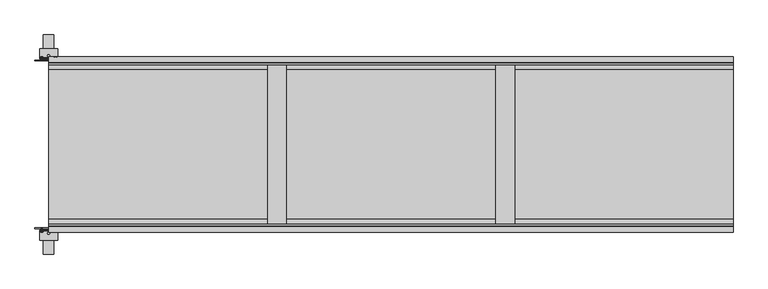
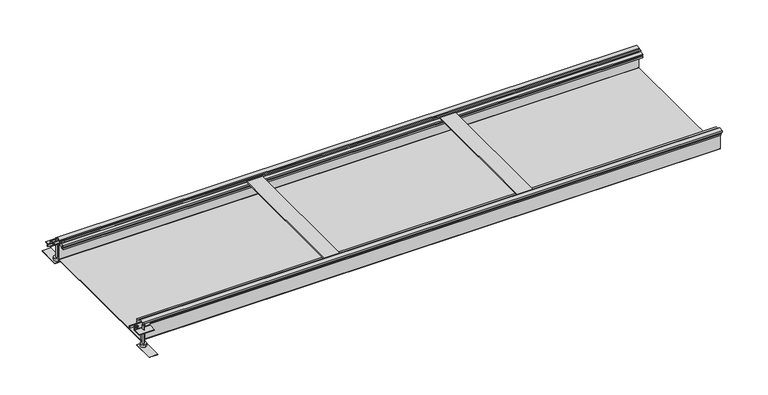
"""IFC4 building model written with IfcOpenShell, lengths in millimetres: proxy geometry."""

from ifc_helpers import new_model, si_unit, point, frame, frame_2d, origin, place, context, project, spatial, polyline, circle_curve, ellipse_curve, trimmed, segment, composite_curve, outline, extrude, source, transform, mapped, element, save
from ifc_brep_helpers import plane_surface, cylinder_surface, revolved_surface, advanced_brep


def electrical_fixtures_b3832a11(model_context):
    return source(origin(), model_context, "Body", "SolidModel", [
        advanced_brep(
        [(-19.209696, -306.6418922, 2.5), (-28.790304, -306.6418922, 2.5), (-28.790304, -304.7, 2.5), (-19.209696, -304.7, 2.5), (-26.562969, -304.7, 2.5), (-21.437031, -304.7, 2.5), (-26.562969, -292.7, 2.5), (-21.437031, -292.7, 2.5), (-24.0, -292.7, 2.5), (-24.0, -308.3479209, 2.5)],
        [
            (0, 1, circle_curve(frame((-24.0, -306.6418922, 2.5), z_axis=(0.0, 1.0, 0.0), x_axis=(-1.0, 0.0, 0.0)), 4.790304)),
            (1, 2),
            (2, 3, circle_curve(frame((-24.0, -304.7, 2.5), z_axis=(0.0, -1.0, 0.0), x_axis=(-1.0, 0.0, 0.0)), 4.790304)),
            (3, 0),
            (1, 0, circle_curve(frame((-24.0, -306.6418922, 2.5), z_axis=(0.0, 1.0, 0.0), x_axis=(-1.0, 0.0, 0.0)), 4.790304)),
            (3, 2, circle_curve(frame((-24.0, -304.7, 2.5), z_axis=(0.0, -1.0, 0.0), x_axis=(-1.0, 0.0, 0.0)), 4.790304)),
            (2, 4),
            (4, 5, circle_curve(frame((-24.0, -304.7, 2.5), z_axis=(0.0, -1.0, 0.0), x_axis=(-1.0, 0.0, 0.0)), 2.562969)),
            (5, 3),
            (5, 4, circle_curve(frame((-24.0, -304.7, 2.5), z_axis=(0.0, -1.0, 0.0), x_axis=(-1.0, 0.0, 0.0)), 2.562969)),
            (4, 6),
            (6, 7, circle_curve(frame((-24.0, -292.7, 2.5), z_axis=(0.0, -1.0, 0.0), x_axis=(-1.0, 0.0, 0.0)), 2.562969)),
            (7, 5),
            (7, 6, circle_curve(frame((-24.0, -292.7, 2.5), z_axis=(0.0, -1.0, 0.0), x_axis=(-1.0, 0.0, 0.0)), 2.562969)),
            (6, 8),
            (8, 7),
            (9, 1, circle_curve(frame((-24.0319066, -300.8592246, 2.5), z_axis=(0.0, 0.0, -1.0), x_axis=(-1.0, 0.0, 0.0)), 7.4887643)),
            (0, 9, circle_curve(frame((-23.9680934, -300.8592246, 2.5), z_axis=(0.0, 0.0, -1.0), x_axis=(1.0, 0.0, 0.0)), 7.4887643)),
        ],
        [
            cylinder_surface(frame((-24.0, -304.2950786, 2.5), z_axis=(0.0, -1.0, 0.0), x_axis=(-1.0, 0.0, 0.0)), 4.790304),
            plane_surface(frame((-24.0, -304.7, 2.5), z_axis=(0.0, 1.0, 0.0), x_axis=(-1.0, 0.0, 0.0))),
            cylinder_surface(frame((-24.0, -304.2950786, 2.5), z_axis=(0.0, -1.0, 0.0), x_axis=(-1.0, 0.0, 0.0)), 2.562969),
            plane_surface(frame((-24.0, -292.7, 2.5), z_axis=(0.0, 1.0, 0.0), x_axis=(-1.0, 0.0, 0.0))),
            revolved_surface(trimmed(ellipse_curve(frame((-24.0319066, -300.8592246, 2.5), z_axis=(0.0, 0.0, 1.0), x_axis=(-1.0, 0.0, 0.0)), 7.4887643, 7.4887643), [point((-28.790304, -306.6418922, 2.5))], [point((-24.0, -308.3479209, 2.5))], True, "CARTESIAN"), (-24.0, -304.2950786, 2.5), (0.0, -1.0, 0.0)),
        ],
        [
            (0, [[1, 2, 3, 4]]),
            (0, [[5, -4, 6, -2]]),
            (1, [[-3, 7, 8, 9]]),
            (1, [[-6, -9, 10, -7]]),
            (2, [[-8, 11, 12, 13]]),
            (2, [[-10, -13, 14, -11]]),
            (3, [[-12, 15, 16]]),
            (3, [[-14, -16, -15]]),
            (4, [[17, -1, 18]]),
            (4, [[-18, -5, -17]]),
        ],
    ),
        advanced_brep(
        [(29.0575247, 304.7, 2.5), (19.4769168, 304.7, 2.5), (19.4769168, 306.6418922, 2.5), (29.0575247, 306.6418922, 2.5), (26.8301898, 304.7, 2.5), (21.7042517, 304.7, 2.5), (26.8301898, 292.7, 2.5), (21.7042517, 292.7, 2.5), (24.2672208, 292.7, 2.5), (24.2672208, 308.3479209, 2.5)],
        [
            (0, 1, circle_curve(frame((24.2672208, 304.7, 2.5), z_axis=(0.0, 1.0, 0.0), x_axis=(-1.0, 0.0, 0.0)), 4.790304)),
            (1, 2),
            (2, 3, circle_curve(frame((24.2672208, 306.6418922, 2.5), z_axis=(0.0, -1.0, 0.0), x_axis=(-1.0, 0.0, 0.0)), 4.790304)),
            (3, 0),
            (1, 0, circle_curve(frame((24.2672208, 304.7, 2.5), z_axis=(0.0, 1.0, 0.0), x_axis=(-1.0, 0.0, 0.0)), 4.790304)),
            (3, 2, circle_curve(frame((24.2672208, 306.6418922, 2.5), z_axis=(0.0, -1.0, 0.0), x_axis=(-1.0, 0.0, 0.0)), 4.790304)),
            (4, 5, circle_curve(frame((24.2672208, 304.7, 2.5), z_axis=(0.0, 1.0, 0.0), x_axis=(-1.0, 0.0, 0.0)), 2.562969)),
            (5, 1),
            (0, 4),
            (5, 4, circle_curve(frame((24.2672208, 304.7, 2.5), z_axis=(0.0, 1.0, 0.0), x_axis=(-1.0, 0.0, 0.0)), 2.562969)),
            (6, 7, circle_curve(frame((24.2672208, 292.7, 2.5), z_axis=(0.0, 1.0, 0.0), x_axis=(-1.0, 0.0, 0.0)), 2.562969)),
            (7, 5),
            (4, 6),
            (7, 6, circle_curve(frame((24.2672208, 292.7, 2.5), z_axis=(0.0, 1.0, 0.0), x_axis=(-1.0, 0.0, 0.0)), 2.562969)),
            (8, 7),
            (6, 8),
            (2, 9, circle_curve(frame((24.2353142, 300.8592246, 2.5), z_axis=(0.0, 0.0, -1.0), x_axis=(-1.0, 0.0, 0.0)), 7.4887643)),
            (9, 3, circle_curve(frame((24.2991274, 300.8592246, 2.5), z_axis=(0.0, 0.0, -1.0), x_axis=(1.0, 0.0, 0.0)), 7.4887643)),
        ],
        [
            cylinder_surface(frame((24.2672208, 304.2950786, 2.5), z_axis=(0.0, -1.0, 0.0), x_axis=(-1.0, 0.0, 0.0)), 4.790304),
            plane_surface(frame((24.2672208, 304.7, 2.5), z_axis=(0.0, -1.0, 0.0), x_axis=(-1.0, 0.0, 0.0))),
            cylinder_surface(frame((24.2672208, 304.2950786, 2.5), z_axis=(0.0, -1.0, 0.0), x_axis=(-1.0, 0.0, 0.0)), 2.562969),
            plane_surface(frame((24.2672208, 292.7, 2.5), z_axis=(0.0, -1.0, 0.0), x_axis=(-1.0, 0.0, 0.0))),
            revolved_surface(trimmed(ellipse_curve(frame((24.2353142, 300.8592246, 2.5), z_axis=(0.0, 0.0, 1.0), x_axis=(-1.0, 0.0, 0.0)), 7.4887643, 7.4887643), [point((24.2672208, 308.3479209, 2.5))], [point((19.4769168, 306.6418922, 2.5))], True, "CARTESIAN"), (24.2672208, 304.2950786, 2.5), (0.0, -1.0, 0.0)),
        ],
        [
            (0, [[1, 2, 3, 4]]),
            (0, [[5, -4, 6, -2]]),
            (1, [[7, 8, -1, 9]]),
            (1, [[10, -9, -5, -8]]),
            (2, [[11, 12, -7, 13]]),
            (2, [[14, -13, -10, -12]]),
            (3, [[15, -11, 16]]),
            (3, [[-16, -14, -15]]),
            (4, [[-3, 17, 18]]),
            (4, [[-6, -18, -17]]),
        ],
    ),
        advanced_brep(
        [(-19.209696, 304.7, 2.5), (-28.790304, 304.7, 2.5), (-28.790304, 306.6418922, 2.5), (-19.209696, 306.6418922, 2.5), (-21.437031, 304.7, 2.5), (-26.562969, 304.7, 2.5), (-21.437031, 292.7, 2.5), (-26.562969, 292.7, 2.5), (-24.0, 292.7, 2.5), (-24.0, 308.3479209, 2.5)],
        [
            (0, 1, circle_curve(frame((-24.0, 304.7, 2.5), z_axis=(0.0, 1.0, 0.0), x_axis=(-1.0, 0.0, 0.0)), 4.790304)),
            (1, 2),
            (2, 3, circle_curve(frame((-24.0, 306.6418922, 2.5), z_axis=(0.0, -1.0, 0.0), x_axis=(-1.0, 0.0, 0.0)), 4.790304)),
            (3, 0),
            (1, 0, circle_curve(frame((-24.0, 304.7, 2.5), z_axis=(0.0, 1.0, 0.0), x_axis=(-1.0, 0.0, 0.0)), 4.790304)),
            (3, 2, circle_curve(frame((-24.0, 306.6418922, 2.5), z_axis=(0.0, -1.0, 0.0), x_axis=(-1.0, 0.0, 0.0)), 4.790304)),
            (4, 5, circle_curve(frame((-24.0, 304.7, 2.5), z_axis=(0.0, 1.0, 0.0), x_axis=(-1.0, 0.0, 0.0)), 2.562969)),
            (5, 1),
            (0, 4),
            (5, 4, circle_curve(frame((-24.0, 304.7, 2.5), z_axis=(0.0, 1.0, 0.0), x_axis=(-1.0, 0.0, 0.0)), 2.562969)),
            (6, 7, circle_curve(frame((-24.0, 292.7, 2.5), z_axis=(0.0, 1.0, 0.0), x_axis=(-1.0, 0.0, 0.0)), 2.562969)),
            (7, 5),
            (4, 6),
            (7, 6, circle_curve(frame((-24.0, 292.7, 2.5), z_axis=(0.0, 1.0, 0.0), x_axis=(-1.0, 0.0, 0.0)), 2.562969)),
            (8, 7),
            (6, 8),
            (2, 9, circle_curve(frame((-24.0319066, 300.8592246, 2.5), z_axis=(0.0, 0.0, -1.0), x_axis=(-1.0, 0.0, 0.0)), 7.4887643)),
            (9, 3, circle_curve(frame((-23.9680934, 300.8592246, 2.5), z_axis=(0.0, 0.0, -1.0), x_axis=(1.0, 0.0, 0.0)), 7.4887643)),
        ],
        [
            cylinder_surface(frame((-24.0, 304.2950786, 2.5), z_axis=(0.0, -1.0, 0.0), x_axis=(-1.0, 0.0, 0.0)), 4.790304),
            plane_surface(frame((-24.0, 304.7, 2.5), z_axis=(0.0, -1.0, 0.0), x_axis=(-1.0, 0.0, 0.0))),
            cylinder_surface(frame((-24.0, 304.2950786, 2.5), z_axis=(0.0, -1.0, 0.0), x_axis=(-1.0, 0.0, 0.0)), 2.562969),
            plane_surface(frame((-24.0, 292.7, 2.5), z_axis=(0.0, -1.0, 0.0), x_axis=(-1.0, 0.0, 0.0))),
            revolved_surface(trimmed(ellipse_curve(frame((-24.0319066, 300.8592246, 2.5), z_axis=(0.0, 0.0, 1.0), x_axis=(-1.0, 0.0, 0.0)), 7.4887643, 7.4887643), [point((-24.0, 308.3479209, 2.5))], [point((-28.790304, 306.6418922, 2.5))], True, "CARTESIAN"), (-24.0, 304.2950786, 2.5), (0.0, -1.0, 0.0)),
        ],
        [
            (0, [[1, 2, 3, 4]]),
            (0, [[5, -4, 6, -2]]),
            (1, [[7, 8, -1, 9]]),
            (1, [[10, -9, -5, -8]]),
            (2, [[11, 12, -7, 13]]),
            (2, [[14, -13, -10, -12]]),
            (3, [[15, -11, 16]]),
            (3, [[-16, -14, -15]]),
            (4, [[-3, 17, 18]]),
            (4, [[-6, -18, -17]]),
        ],
    ),
        extrude(outline(polyline([(-48.0, 292.7), (-48.0, 295.7), (48.0, 295.7), (48.0, 292.7), (-48.0, 292.7)])), frame((0.0, 0.0, -2.5), z_axis=(0.0, 0.0, 1.0), x_axis=(1.0, 0.0, 0.0)), (0.0, 0.0, 1.0), 10.0),
        extrude(outline(polyline([(-48.0, -295.7), (-48.0, -292.7), (48.0, -292.7), (48.0, -295.7), (-48.0, -295.7)])), frame((0.0, 0.0, -2.5), z_axis=(0.0, 0.0, 1.0), x_axis=(1.0, 0.0, 0.0)), (0.0, 0.0, 1.0), 10.0),
        extrude(outline(composite_curve([segment(polyline([(300.6, 10.9), (302.6, 10.9), (302.6, -11.1088822)]), True, "CONTINUOUS"), segment(trimmed(circle_curve(frame_2d((303.5911178, -11.1088822)), 0.9911178), [point((302.6, -11.1088822))], [point((303.5911178, -12.1))], True, "CARTESIAN"), True, "CONTINUOUS"), segment(polyline([(303.5911178, -12.1), (335.6, -12.1), (335.6, -14.1), (303.6002521, -14.1)]), True, "CONTINUOUS"), segment(trimmed(circle_curve(frame_2d((303.6002521, -11.0997479)), 3.0002521), [point((303.6002521, -14.1))], [point((300.6, -11.0997479))], False, "CARTESIAN"), True, "CONTINUOUS"), segment(polyline([(300.6, -11.0997479), (300.6, 10.9)]), True, "CONTINUOUS")], self_intersect=False)), frame((-31.7, 0.0, 0.0), z_axis=(1.0, 0.0, 0.0), x_axis=(0.0, 1.0, 0.0)), (0.0, 0.0, 1.0), 63.4),
        extrude(outline(composite_curve([segment(polyline([(-300.6, 10.9), (-300.6, -11.0997479)]), True, "CONTINUOUS"), segment(trimmed(circle_curve(frame_2d((-303.6002521, -11.0997479)), 3.0002521), [point((-300.6, -11.0997479))], [point((-303.6002521, -14.1))], False, "CARTESIAN"), True, "CONTINUOUS"), segment(polyline([(-303.6002521, -14.1), (-335.6, -14.1), (-335.6, -12.1), (-303.5911178, -12.1)]), True, "CONTINUOUS"), segment(trimmed(circle_curve(frame_2d((-303.5911178, -11.1088822)), 0.9911178), [point((-303.5911178, -12.1))], [point((-302.6, -11.1088822))], True, "CARTESIAN"), True, "CONTINUOUS"), segment(polyline([(-302.6, -11.1088822), (-302.6, 10.9), (-300.6, 10.9)]), True, "CONTINUOUS")], self_intersect=False)), frame((-31.7, 0.0, 0.0), z_axis=(1.0, 0.0, 0.0), x_axis=(0.0, 1.0, 0.0)), (0.0, 0.0, 1.0), 63.4),
        extrude(outline(composite_curve([segment(trimmed(circle_curve(frame_2d((0.0, 311.1712378)), 3.9923162), [point((0.0, 315.163554))], [point((0.0, 307.1789216))], False, "CARTESIAN"), True, "CONTINUOUS"), segment(trimmed(circle_curve(frame_2d((0.0, 311.1712378)), 3.9923162), [point((0.0, 307.1789216))], [point((0.0, 315.163554))], False, "CARTESIAN"), True, "CONTINUOUS")], self_intersect=False)), frame((0.0, 0.0, -74.8), z_axis=(0.0, 0.0, 1.0), x_axis=(1.0, 0.0, 0.0)), (0.0, 0.0, 1.0), 81.8),
        extrude(outline(composite_curve([segment(trimmed(circle_curve(frame_2d((0.0, -311.0787011)), 3.991847), [point((0.0, -307.0868541))], [point((0.0, -315.0705482))], False, "CARTESIAN"), True, "CONTINUOUS"), segment(trimmed(circle_curve(frame_2d((0.0, -311.0787011)), 3.991847), [point((0.0, -315.0705482))], [point((0.0, -307.0868541))], False, "CARTESIAN"), True, "CONTINUOUS")], self_intersect=False)), frame((0.0, 0.0, -74.8), z_axis=(0.0, 0.0, 1.0), x_axis=(1.0, 0.0, 0.0)), (0.0, 0.0, 1.0), 81.8),
        extrude(outline(composite_curve([segment(trimmed(circle_curve(frame_2d((0.0, 311.1652527)), 12.0), [point((0.0, 323.1652527))], [point((0.0, 299.1652527))], False, "CARTESIAN"), True, "CONTINUOUS"), segment(trimmed(circle_curve(frame_2d((0.0, 311.1652527)), 12.0), [point((0.0, 299.1652527))], [point((0.0, 323.1652527))], False, "CARTESIAN"), True, "CONTINUOUS")], self_intersect=False)), frame((0.0, 0.0, -85.5), z_axis=(0.0, 0.0, 1.0), x_axis=(1.0, 0.0, 0.0)), (0.0, 0.0, 1.0), 10.7),
        extrude(outline(composite_curve([segment(trimmed(circle_curve(frame_2d((0.0, -311.112037)), 12.0), [point((0.0, -299.112037))], [point((0.0, -323.112037))], False, "CARTESIAN"), True, "CONTINUOUS"), segment(trimmed(circle_curve(frame_2d((0.0, -311.112037)), 12.0), [point((0.0, -323.112037))], [point((0.0, -299.112037))], False, "CARTESIAN"), True, "CONTINUOUS")], self_intersect=False)), frame((0.0, 0.0, -85.5), z_axis=(0.0, 0.0, 1.0), x_axis=(1.0, 0.0, 0.0)), (0.0, 0.0, 1.0), 10.7),
        extrude(outline(polyline([(18.0, 294.1), (-18.0, 294.1), (-18.0, 384.1), (18.0, 384.1), (18.0, 294.1)])), frame((0.0, 0.0, -87.0), z_axis=(0.0, 0.0, 1.0), x_axis=(1.0, 0.0, 0.0)), (0.0, 0.0, 1.0), 1.5),
        extrude(outline(polyline([(18.0, -384.1), (-18.0, -384.1), (-18.0, -294.1), (18.0, -294.1), (18.0, -384.1)])), frame((0.0, 0.0, -87.0), z_axis=(0.0, 0.0, 1.0), x_axis=(1.0, 0.0, 0.0)), (0.0, 0.0, 1.0), 1.5),
        extrude(outline(polyline([(1633.5851476, 279.8), (1633.5851476, -279.8), (1568.585332, -279.8), (1568.585332, 279.8), (1633.5851476, 279.8)])), frame((0.0, 0.0, 2.5), z_axis=(0.0, 0.0, 1.0), x_axis=(1.0, 0.0, 0.0)), (0.0, 0.0, 1.0), 4.2),
        extrude(outline(polyline([(833.5851476, 279.8), (833.5851476, -279.8), (768.585332, -279.8), (768.585332, 279.8), (833.5851476, 279.8)])), frame((0.0, 0.0, 2.5), z_axis=(0.0, 0.0, 1.0), x_axis=(1.0, 0.0, 0.0)), (0.0, 0.0, 1.0), 4.2),
        extrude(outline(polyline([(308.0, 6.7), (290.0, 6.7), (290.0, -2.5), (300.475, -2.5), (300.475, -4.0), (294.6, -4.0), (294.6, -14.0), (293.1, -14.0), (293.1, -4.0), (285.1, -4.0), (285.1, -10.1), (273.3, -10.1), (273.3, -14.0), (263.1, -14.0), (263.1, -6.6607064), (266.0, -6.6607064), (266.0, -12.5), (270.7, -12.5), (270.7, 0.5), (266.0, 0.5), (266.0, -2.1), (262.9910979, -2.1), (262.9910979, 2.5), (279.8, 2.5), (279.8, 10.0), (285.0, 10.0), (285.0, -0.5), (288.0, -0.5), (288.0, 13.0), (308.0, 13.0), (308.0, 6.7)])), frame((0.0, 0.0, 0.0), z_axis=(1.0, 0.0, 0.0), x_axis=(0.0, 1.0, 0.0)), (0.0, 0.0, 1.0), 2400.0),
        extrude(outline(polyline([(-308.0, 6.7), (-308.0, 13.0), (-288.0, 13.0), (-288.0, -0.5), (-285.0, -0.5), (-285.0, 10.0), (-279.8, 10.0), (-279.8, 2.5), (-262.9910979, 2.5), (-262.9910979, -2.1), (-266.0, -2.1), (-266.0, 0.5), (-270.7, 0.5), (-270.7, -12.5), (-266.0, -12.5), (-266.0, -6.6607064), (-263.1, -6.6607064), (-263.1, -14.0), (-273.3, -14.0), (-273.3, -10.1), (-285.1, -10.1), (-285.1, -4.0), (-293.1, -4.0), (-293.1, -14.0), (-294.6, -14.0), (-294.6, -4.0), (-300.475, -4.0), (-300.475, -2.5), (-290.0, -2.5), (-290.0, 6.7), (-308.0, 6.7)])), frame((0.0, 0.0, 0.0), z_axis=(1.0, 0.0, 0.0), x_axis=(0.0, 1.0, 0.0)), (0.0, 0.0, 1.0), 2400.0),
        extrude(outline(composite_curve([segment(polyline([(291.0, -5.0), (286.0, -5.0), (286.0, -4.0), (291.0, -4.0)]), True, "CONTINUOUS"), segment(trimmed(circle_curve(frame_2d((291.0, -6.0)), 2.0), [point((291.0, -4.0))], [point((293.0, -6.0))], False, "CARTESIAN"), True, "CONTINUOUS"), segment(polyline([(293.0, -6.0), (293.0, -74.0)]), True, "CONTINUOUS"), segment(trimmed(circle_curve(frame_2d((291.0, -74.0)), 2.0), [point((293.0, -74.0))], [point((291.0, -76.0))], False, "CARTESIAN"), True, "CONTINUOUS"), segment(polyline([(291.0, -76.0), (-290.9892454, -76.0)]), True, "CONTINUOUS"), segment(trimmed(circle_curve(frame_2d((-290.9892454, -73.9892454)), 2.0107546), [point((-290.9892454, -76.0))], [point((-293.0, -73.9892454))], False, "CARTESIAN"), True, "CONTINUOUS"), segment(polyline([(-293.0, -73.9892454), (-293.0, -5.9843923)]), True, "CONTINUOUS"), segment(trimmed(circle_curve(frame_2d((-291.0156077, -5.9843923)), 1.9843923), [point((-293.0, -5.9843923))], [point((-291.0156077, -4.0))], False, "CARTESIAN"), True, "CONTINUOUS"), segment(polyline([(-291.0156077, -4.0), (-286.0, -4.0), (-286.0, -5.0), (-290.9930712, -5.0)]), True, "CONTINUOUS"), segment(trimmed(circle_curve(frame_2d((-290.9930712, -6.0069288)), 1.0069288), [point((-290.9930712, -5.0))], [point((-292.0, -6.0069288))], True, "CARTESIAN"), True, "CONTINUOUS"), segment(polyline([(-292.0, -6.0069288), (-292.0, -73.9588562)]), True, "CONTINUOUS"), segment(trimmed(circle_curve(frame_2d((-290.9588562, -73.9588562)), 1.0411438), [point((-292.0, -73.9588562))], [point((-290.9588562, -75.0))], True, "CARTESIAN"), True, "CONTINUOUS"), segment(polyline([(-290.9588562, -75.0), (291.0, -75.0)]), True, "CONTINUOUS"), segment(trimmed(circle_curve(frame_2d((291.0, -74.0)), 1.0), [point((291.0, -75.0))], [point((292.0, -74.0))], True, "CARTESIAN"), True, "CONTINUOUS"), segment(polyline([(292.0, -74.0), (292.0, -6.0)]), True, "CONTINUOUS"), segment(trimmed(circle_curve(frame_2d((291.0, -6.0)), 1.0), [point((292.0, -6.0))], [point((291.0, -5.0))], True, "CARTESIAN"), True, "CONTINUOUS")], self_intersect=False)), frame((0.0, 0.0, 0.0), z_axis=(1.0, 0.0, 0.0), x_axis=(0.0, 1.0, 0.0)), (0.0, 0.0, 1.0), 2400.0),
    ])


if __name__ == "__main__":
    model = new_model("IFC4")
    model_context = context("Model", 3, world=origin())
    ifc_project = project(units=[si_unit("LENGTHUNIT", "METRE", prefix="MILLI")], contexts=[model_context])
    site = spatial("IfcSite", under=ifc_project)
    building = spatial("IfcBuilding", under=site)
    placement = place(None, origin())
    electrical_fixtures_shape = electrical_fixtures_b3832a11(model_context)
    element("IfcBuildingElementProxy", 1, Name="Electrical Fixtures", at=placement, inside=building, context=model_context, shape_type="MappedRepresentation", body=[
        mapped(electrical_fixtures_shape, transform((0.0, 0.0, 0.0), x_axis=(1.0, 0.0, 0.0), y_axis=(0.0, 1.0, 0.0), z_axis=(0.0, 0.0, 1.0))),
    ])
    save(model, "model.ifc")
